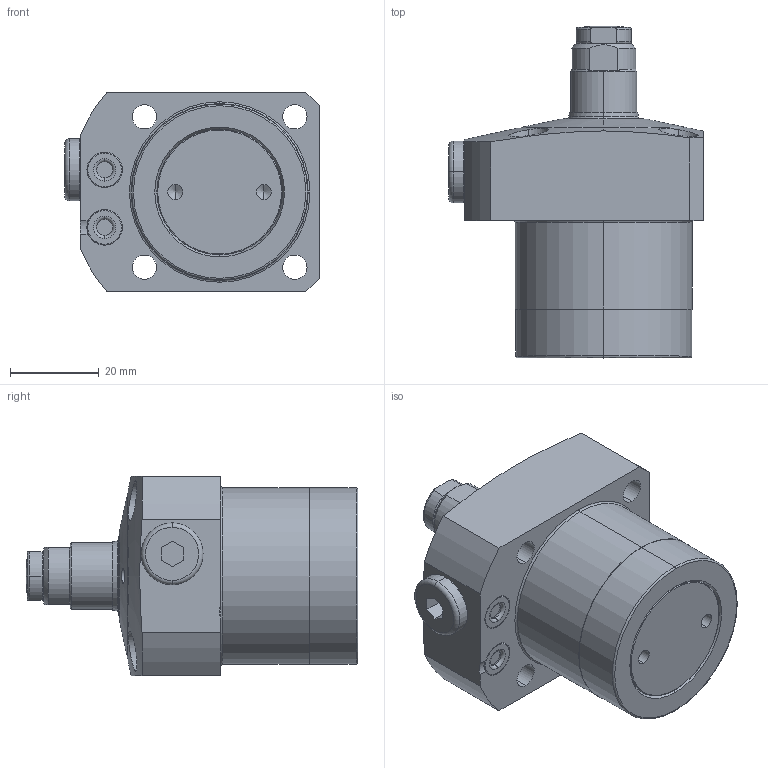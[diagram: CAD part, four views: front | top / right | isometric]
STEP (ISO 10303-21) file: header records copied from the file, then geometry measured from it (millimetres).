
FILE_DESCRIPTION(/* description */ (''),/* implementation_level */ '2;1');
FILE_NAME(/* name */ 'KFSS40.stp',/* time_stamp */ '2026-02-06T09:44:27+08:00',/* author */ (''),/* organization */ (''),/* preprocessor_version */ 'ST-DEVELOPER v16.7',/* originating_system */ 'SIEMENS PLM Software NX 12.0',/* authorisation */ '');
FILE_SCHEMA (('AUTOMOTIVE_DESIGN { 1 0 10303 214 3 1 1 1 }'));
Length unit declared in the file: millimetre
Products named in the file (8): XLC-M10_Oring3119; XLC-M10_contactbolt3093; KFSS40-04; KFSS40-05; KFSS40-02; KFSS40-01; KFSS40-03; LC0403-Cx-E_step
Assembly tree (8 placements, depth 3):
  LC0403-Cx-E_step
    KFSS40-01
    KFSS40-02
    KFSS40-05  x2
    KFSS40-04
    KFSS40-03
      XLC-M10_contactbolt3093
      XLC-M10_Oring3119
Bounding box: 57.5 x 75 x 45 mm (x, y, z)
Volume: 87181.1 mm3; surface area: 17973 mm2
Topology: 7 solids, 7 shells, 236 faces, 518 edges, 312 vertices
Faces by surface type: cylinder 79, torus 60, plane 54, cone 41, sphere 2
Entity records: 6753 total; most frequent: CARTESIAN_POINT 1405, DIRECTION 1197, ORIENTED_EDGE 972, AXIS2_PLACEMENT_3D 518, EDGE_CURVE 486, VERTEX_POINT 298, CIRCLE 285, EDGE_LOOP 260
